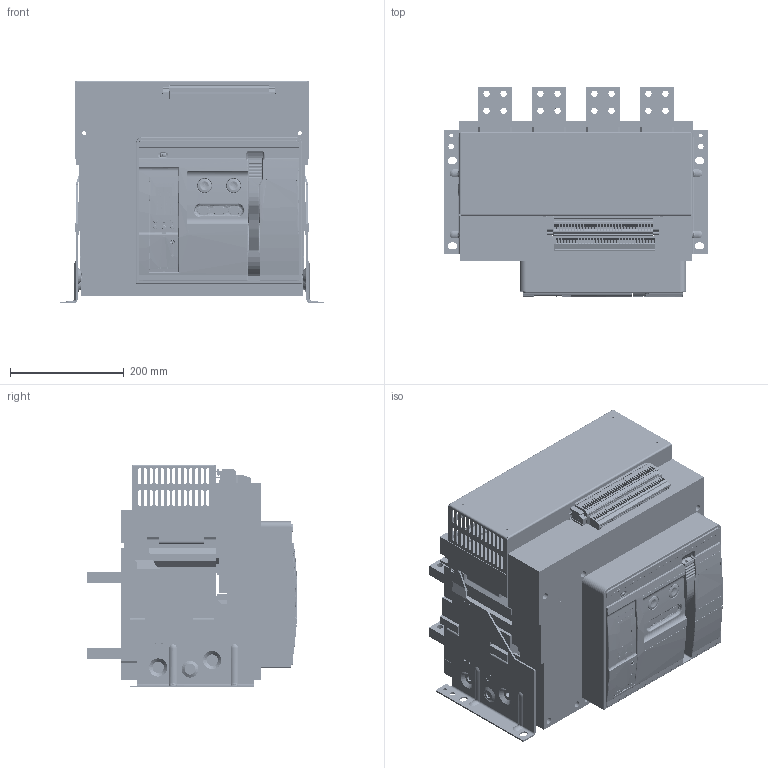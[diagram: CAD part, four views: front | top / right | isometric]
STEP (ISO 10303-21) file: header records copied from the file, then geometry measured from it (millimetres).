
FILE_DESCRIPTION(/* description */ (''),/* implementation_level */ '2;1');
FILE_NAME(/* name */ 'C:/Users/carlos.gonzalez/Documents/ADRIAN_TEMP_DRAWING/Ex9A25_4P_2000_F_PB_Drawing.step',/* time_stamp */ '2021-10-14T12:40:10+02:00',/* author */ (''),/* organization */ (''),/* preprocessor_version */ 'ST-DEVELOPER v18.1',/* originating_system */ 'Autodesk Translation Framework v10.10.0.1391',/* authorisation */ '');
FILE_SCHEMA (('AUTOMOTIVE_DESIGN { 1 0 10303 214 3 1 1 }'));
Products named in the file (38): Ex9A25_4P_2000_F; Ex9A25; Auxiliary terminals; EX9A25-GDS-DZ_ASM; 8060A03101011; UKK_3-SELECT-81050_1; D_UKK_3_5-SELECT-6580; 0800886_E-NS-35-N_SELECT; Cover; 8253A0101108-1; 8253A0101010; 5300A15261172_ASM; 8300A0101133; 8860A0724001; 8235A0101103; 8253A0101002; 8282A0820014; 8320A0101121-0814; 8860A1424194; 8253A0101106-1; 8253A0101107-1; 8ZTD_282_1203_AF1; Internal components; 8300A0101134; 8300A0306006; 8ZTD_123_167_A; 8ZTD_123_166_A; 2500-DIBAN-4P; 2500-JIZUO-4P; 8060A0306108; 8060A0306109; Smart unit; 8320A0101004; 8005A0101008; 8860A1424009; 5043A0101001; Main terminals; 8580A0412108
Assembly tree (79 placements, depth 5):
  Ex9A25_4P_2000_F
    Ex9A25
      Auxiliary terminals
        EX9A25-GDS-DZ_ASM
          8060A03101011
          0800886_E-NS-35-N_SELECT  x2
          UKK_3-SELECT-81050_1  x34
          D_UKK_3_5-SELECT-6580
      Cover
        8253A0101108-1
        8253A0101010
        5300A15261172_ASM
          8300A0101133
          8860A0724001
          8235A0101103
          8253A0101002
          8282A0820014
          8320A0101121-0814
          8860A1424194
          8253A0101106-1
          8253A0101107-1
          8ZTD_282_1203_AF1  x2
      Internal components
        8300A0101134
        8300A0306006
        8ZTD_123_167_A
        8ZTD_123_166_A
        2500-DIBAN-4P
        2500-JIZUO-4P
        8060A0306108
        8060A0306109
      Smart unit
        8320A0101004
        8005A0101008
        8860A1424009
        5043A0101001
      Main terminals
        8580A0412108  x8
Bounding box: 465 x 370.99 x 392 mm (x, y, z)
Volume: 21566054.8 mm3; surface area: 2803726.6 mm2
Topology: 71 solids, 94 shells, 14658 faces, 39658 edges, 26036 vertices
Faces by surface type: plane 11928, cylinder 2016, bspline 276, torus 229, cone 138, sphere 71
Full cylindrical faces by diameter (mm): 2 x7, 2.1 x2, 2.5 x3, 2.6 x2, 3 x11, 3.5 x11, 4 x12, 4.2 x4, 4.3 x1, 4.5 x2, 5 x16, 5.008 x1, 6 x8, 6.1 x1, 6.2 x4, 6.5 x7, 7 x9, 8 x4, 8.3 x2, 8.5 x36, 9 x2, 10 x16, 11 x32, 12 x8, 12.5 x1, 14 x1, 15 x1, 16 x1, 17 x1, 18 x2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
Entity records: 225582 total; most frequent: CARTESIAN_POINT 85925, ORIENTED_EDGE 29446, DIRECTION 27420, EDGE_CURVE 14748, LINE 10842, VECTOR 10842, VERTEX_POINT 9616, AXIS2_PLACEMENT_3D 8289
